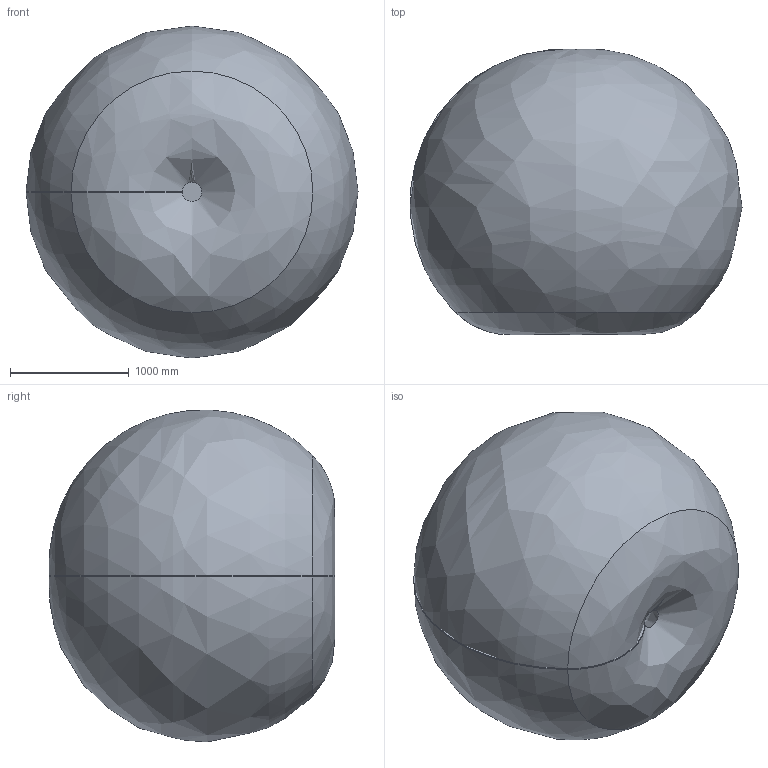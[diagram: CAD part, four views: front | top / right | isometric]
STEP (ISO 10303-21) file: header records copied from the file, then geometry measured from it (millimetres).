
FILE_DESCRIPTION( ( 'STEP AP214' ), '1' );
FILE_NAME( 'C:/Users/9607552/Desktop/C12-B1401SW.stp', '2024-01-11T02:04:22', ( '' ), ( '' ), ' ', 'PARTsolutions', ' ' );
FILE_SCHEMA( ( 'AUTOMOTIVE_DESIGN { 1 0 10303 214 1 1 1 1 }' ) );
Length unit declared in the file: millimetre
Products named in the file (10): C12-B1401SW; _Base C8XLSR; _J1 C8S; _J2 C8XLS; _J3 C12XLS (7); _J4 C12XLS; _J5 C8S; _J6 C8S; _WS C12-B1401S (c8xl_12xl-b-04)_1; _WS C12-B1401S (c8xl_12xl-b-04)_2
Assembly tree (9 placements, depth 2):
  C12-B1401SW
    _Base C8XLSR
    _J1 C8S
    _J2 C8XLS
    _J3 C12XLS (7)
    _J4 C12XLS
    _J5 C8S
    _J6 C8S
    _WS C12-B1401S (c8xl_12xl-b-04)_1
    _WS C12-B1401S (c8xl_12xl-b-04)_2
Bounding box: 2800.38 x 2410.77 x 2799.12 mm (x, y, z)
Volume: 10293456363.3 mm3; surface area: 35552606.7 mm2
Topology: 9 solids, 12 shells, 4107 faces, 10358 edges, 6713 vertices
Faces by surface type: plane 2229, cylinder 1177, cone 422, torus 196, sphere 45, bspline 38
Full cylindrical faces by diameter (mm): 1 x30, 2.459 x4, 3 x2, 3.242 x27, 3.3 x4, 4 x2, 4.134 x5, 4.5 x8, 5 x3, 5.4 x4, 5.5 x4, 6 x8, 7 x49, 7.554 x2, 7.9 x4, 8 x16, 8.5 x4, 9 x6, 9.5 x6, 10 x19, 10.106 x9, 10.2 x1, 10.4 x2, 11 x3, 12 x2, 13 x11, 14 x3, 16 x3, 17 x2, 17.8 x1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
Entity records: 158182 total; most frequent: CARTESIAN_POINT 28976, DIRECTION 20085, ORIENTED_EDGE 18904, EDGE_CURVE 9452, AXIS2_PLACEMENT_3D 7338, VERTEX_POINT 6606, LINE 5409, VECTOR 5409
